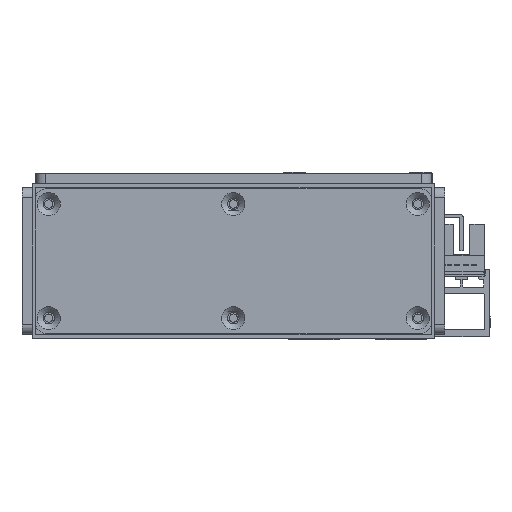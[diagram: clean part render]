
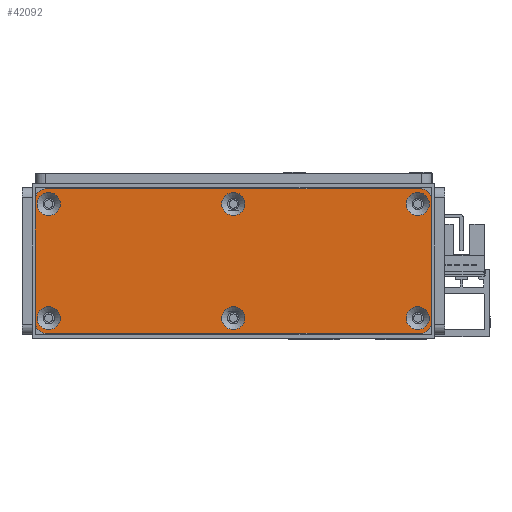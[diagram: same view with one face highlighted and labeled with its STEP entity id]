
A CAD part, front view. The second image highlights one B-rep face of the part: STEP entity #42092.
In plain terms, the highlighted planar face has unit normal (0, -1, 0) as drawn and (0, 0, 1) by its records, which use the part's own axes.
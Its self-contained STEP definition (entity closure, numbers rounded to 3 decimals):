
#787=FACE_BOUND('',#7693,.T.);
#788=FACE_BOUND('',#7694,.T.);
#789=FACE_BOUND('',#7695,.T.);
#790=FACE_BOUND('',#7696,.T.);
#791=FACE_BOUND('',#7697,.T.);
#792=FACE_BOUND('',#7698,.T.);
#2555=PLANE('',#45622);
#5144=FACE_OUTER_BOUND('',#7692,.T.);
#7692=EDGE_LOOP('',(#39237,#39238,#39239,#39240,#39241,#39242,#39243,#39244));
#7693=EDGE_LOOP('',(#39245));
#7694=EDGE_LOOP('',(#39246));
#7695=EDGE_LOOP('',(#39247));
#7696=EDGE_LOOP('',(#39248));
#7697=EDGE_LOOP('',(#39249));
#7698=EDGE_LOOP('',(#39250));
#12285=LINE('',#70305,#16955);
#12289=LINE('',#70317,#16959);
#12293=LINE('',#70329,#16963);
#12297=LINE('',#70339,#16967);
#16955=VECTOR('',#56318,10.);
#16959=VECTOR('',#56330,10.);
#16963=VECTOR('',#56342,10.);
#16967=VECTOR('',#56354,10.);
#18147=CIRCLE('',#45576,3.45);
#18150=CIRCLE('',#45581,3.45);
#18153=CIRCLE('',#45586,3.45);
#18156=CIRCLE('',#45591,3.45);
#18159=CIRCLE('',#45596,3.45);
#18162=CIRCLE('',#45601,3.45);
#18166=CIRCLE('',#45607,3.);
#18168=CIRCLE('',#45611,3.);
#18170=CIRCLE('',#45615,3.);
#18172=CIRCLE('',#45619,3.);
#21939=VERTEX_POINT('',#70233);
#21942=VERTEX_POINT('',#70243);
#21945=VERTEX_POINT('',#70253);
#21948=VERTEX_POINT('',#70263);
#21951=VERTEX_POINT('',#70273);
#21954=VERTEX_POINT('',#70283);
#21959=VERTEX_POINT('',#70296);
#21960=VERTEX_POINT('',#70298);
#21962=VERTEX_POINT('',#70304);
#21964=VERTEX_POINT('',#70310);
#21966=VERTEX_POINT('',#70316);
#21968=VERTEX_POINT('',#70322);
#21970=VERTEX_POINT('',#70328);
#21972=VERTEX_POINT('',#70334);
#27714=EDGE_CURVE('',#21939,#21939,#18147,.T.);
#27719=EDGE_CURVE('',#21942,#21942,#18150,.T.);
#27724=EDGE_CURVE('',#21945,#21945,#18153,.T.);
#27729=EDGE_CURVE('',#21948,#21948,#18156,.T.);
#27734=EDGE_CURVE('',#21951,#21951,#18159,.T.);
#27739=EDGE_CURVE('',#21954,#21954,#18162,.T.);
#27746=EDGE_CURVE('',#21960,#21959,#18166,.T.);
#27749=EDGE_CURVE('',#21962,#21960,#12285,.T.);
#27752=EDGE_CURVE('',#21964,#21962,#18168,.T.);
#27755=EDGE_CURVE('',#21966,#21964,#12289,.T.);
#27758=EDGE_CURVE('',#21968,#21966,#18170,.T.);
#27761=EDGE_CURVE('',#21970,#21968,#12293,.T.);
#27764=EDGE_CURVE('',#21972,#21970,#18172,.T.);
#27767=EDGE_CURVE('',#21959,#21972,#12297,.T.);
#39237=ORIENTED_EDGE('',*,*,#27767,.T.);
#39238=ORIENTED_EDGE('',*,*,#27764,.T.);
#39239=ORIENTED_EDGE('',*,*,#27761,.T.);
#39240=ORIENTED_EDGE('',*,*,#27758,.T.);
#39241=ORIENTED_EDGE('',*,*,#27755,.T.);
#39242=ORIENTED_EDGE('',*,*,#27752,.T.);
#39243=ORIENTED_EDGE('',*,*,#27749,.T.);
#39244=ORIENTED_EDGE('',*,*,#27746,.T.);
#39245=ORIENTED_EDGE('',*,*,#27714,.T.);
#39246=ORIENTED_EDGE('',*,*,#27719,.T.);
#39247=ORIENTED_EDGE('',*,*,#27724,.T.);
#39248=ORIENTED_EDGE('',*,*,#27729,.T.);
#39249=ORIENTED_EDGE('',*,*,#27734,.T.);
#39250=ORIENTED_EDGE('',*,*,#27739,.T.);
#42092=ADVANCED_FACE('',(#5144,#787,#788,#789,#790,#791,#792),#2555,.T.);
#45576=AXIS2_PLACEMENT_3D('',#70234,#56237,#56238);
#45581=AXIS2_PLACEMENT_3D('',#70244,#56249,#56250);
#45586=AXIS2_PLACEMENT_3D('',#70254,#56261,#56262);
#45591=AXIS2_PLACEMENT_3D('',#70264,#56273,#56274);
#45596=AXIS2_PLACEMENT_3D('',#70274,#56285,#56286);
#45601=AXIS2_PLACEMENT_3D('',#70284,#56297,#56298);
#45607=AXIS2_PLACEMENT_3D('',#70299,#56312,#56313);
#45611=AXIS2_PLACEMENT_3D('',#70311,#56324,#56325);
#45615=AXIS2_PLACEMENT_3D('',#70323,#56336,#56337);
#45619=AXIS2_PLACEMENT_3D('',#70335,#56348,#56349);
#45622=AXIS2_PLACEMENT_3D('',#70341,#56357,#56358);
#56237=DIRECTION('center_axis',(0.,0.,-1.));
#56238=DIRECTION('ref_axis',(1.,0.,0.));
#56249=DIRECTION('center_axis',(0.,0.,-1.));
#56250=DIRECTION('ref_axis',(1.,0.,0.));
#56261=DIRECTION('center_axis',(0.,0.,-1.));
#56262=DIRECTION('ref_axis',(1.,0.,0.));
#56273=DIRECTION('center_axis',(0.,0.,-1.));
#56274=DIRECTION('ref_axis',(1.,0.,0.));
#56285=DIRECTION('center_axis',(0.,0.,-1.));
#56286=DIRECTION('ref_axis',(1.,0.,0.));
#56297=DIRECTION('center_axis',(0.,0.,-1.));
#56298=DIRECTION('ref_axis',(1.,0.,0.));
#56312=DIRECTION('center_axis',(0.,0.,1.));
#56313=DIRECTION('ref_axis',(-1.,0.,0.));
#56318=DIRECTION('',(0.,1.,0.));
#56324=DIRECTION('center_axis',(0.,0.,1.));
#56325=DIRECTION('ref_axis',(0.,1.,0.));
#56330=DIRECTION('',(1.,0.,0.));
#56336=DIRECTION('center_axis',(0.,0.,1.));
#56337=DIRECTION('ref_axis',(1.,0.,0.));
#56342=DIRECTION('',(0.,-1.,0.));
#56348=DIRECTION('center_axis',(0.,0.,1.));
#56349=DIRECTION('ref_axis',(0.,-1.,0.));
#56354=DIRECTION('',(-1.,0.,0.));
#56357=DIRECTION('center_axis',(0.,0.,1.));
#56358=DIRECTION('ref_axis',(1.,0.,0.));
#70233=CARTESIAN_POINT('',(110.55,4.5,3.));
#70234=CARTESIAN_POINT('Origin',(114.,4.5,3.));
#70243=CARTESIAN_POINT('',(55.55,38.5,3.));
#70244=CARTESIAN_POINT('Origin',(59.,38.5,3.));
#70253=CARTESIAN_POINT('',(55.55,4.5,3.));
#70254=CARTESIAN_POINT('Origin',(59.,4.5,3.));
#70263=CARTESIAN_POINT('',(0.55,38.5,3.));
#70264=CARTESIAN_POINT('Origin',(4.,38.5,3.));
#70273=CARTESIAN_POINT('',(110.55,38.5,3.));
#70274=CARTESIAN_POINT('Origin',(114.,38.5,3.));
#70283=CARTESIAN_POINT('',(0.55,4.5,3.));
#70284=CARTESIAN_POINT('Origin',(4.,4.5,3.));
#70296=CARTESIAN_POINT('',(115.,43.,3.));
#70298=CARTESIAN_POINT('',(118.,40.,3.));
#70299=CARTESIAN_POINT('Origin',(115.,40.,3.));
#70304=CARTESIAN_POINT('',(118.,3.,3.));
#70305=CARTESIAN_POINT('',(118.,40.,3.));
#70310=CARTESIAN_POINT('',(115.,0.,3.));
#70311=CARTESIAN_POINT('Origin',(115.,3.,3.));
#70316=CARTESIAN_POINT('',(3.,0.,3.));
#70317=CARTESIAN_POINT('',(115.,0.,3.));
#70322=CARTESIAN_POINT('',(0.,3.,3.));
#70323=CARTESIAN_POINT('Origin',(3.,3.,3.));
#70328=CARTESIAN_POINT('',(0.,40.,3.));
#70329=CARTESIAN_POINT('',(0.,3.,3.));
#70334=CARTESIAN_POINT('',(3.,43.,3.));
#70335=CARTESIAN_POINT('Origin',(3.,40.,3.));
#70339=CARTESIAN_POINT('',(3.,43.,3.));
#70341=CARTESIAN_POINT('Origin',(59.,21.5,3.));
